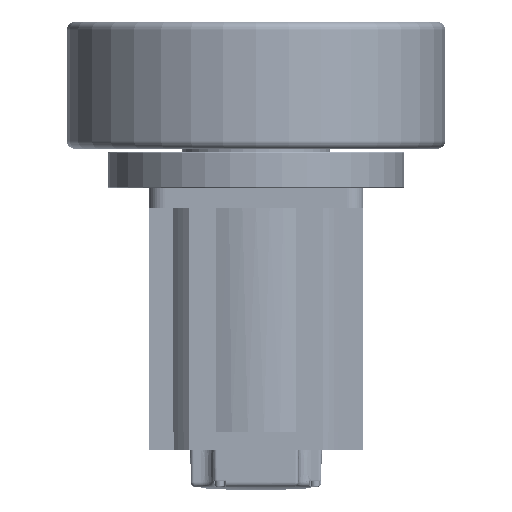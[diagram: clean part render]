
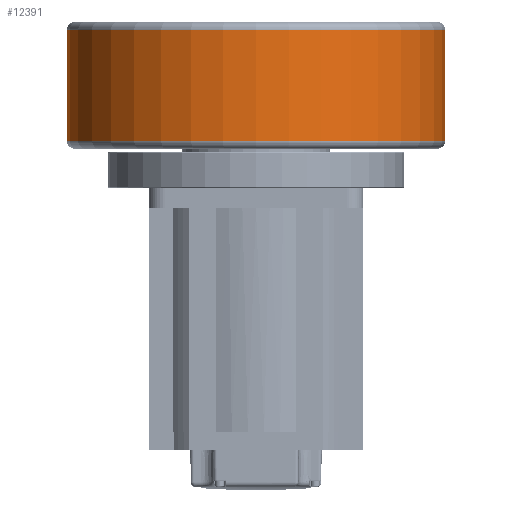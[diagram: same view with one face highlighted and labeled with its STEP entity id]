
A CAD part, left-side view. The second image highlights one B-rep face of the part: STEP entity #12391.
In plain terms, the highlighted cylindrical face has radius 115 mm (diameter 230 mm), a partial arc.
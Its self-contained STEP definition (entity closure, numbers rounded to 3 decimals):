
#10570=CARTESIAN_POINT('',(5.,0.,0.));
#10571=DIRECTION('',(1.,0.,0.));
#10572=DIRECTION('',(0.,0.,-1.));
#10573=AXIS2_PLACEMENT_3D('',#10570,#10571,#10572);
#10580=DIRECTION('',(-1.,0.,0.));
#10581=VECTOR('',#10580,67.);
#10582=CARTESIAN_POINT('',(72.,0.,115.));
#10583=LINE('',#10582,#10581);
#10589=CARTESIAN_POINT('',(72.,0.,0.));
#10590=DIRECTION('',(-1.,0.,0.));
#10591=DIRECTION('',(0.,0.,1.));
#10592=AXIS2_PLACEMENT_3D('',#10589,#10590,#10591);
#10624=DIRECTION('',(-1.,0.,0.));
#10625=VECTOR('',#10624,67.);
#10626=CARTESIAN_POINT('',(72.,0.,-115.));
#10627=LINE('',#10626,#10625);
#11732=CARTESIAN_POINT('',(5.,0.,-115.));
#11733=CARTESIAN_POINT('',(5.,0.,115.));
#11734=VERTEX_POINT('',#11732);
#11735=VERTEX_POINT('',#11733);
#11736=CARTESIAN_POINT('',(72.,0.,115.));
#11737=CARTESIAN_POINT('',(72.,0.,-115.));
#11738=VERTEX_POINT('',#11736);
#11739=VERTEX_POINT('',#11737);
#12377=CARTESIAN_POINT('',(0.,0.,0.));
#12378=DIRECTION('',(-1.,0.,0.));
#12379=DIRECTION('',(0.,0.,1.));
#12380=AXIS2_PLACEMENT_3D('',#12377,#12378,#12379);
#12381=CYLINDRICAL_SURFACE('',#12380,115.);
#12383=ORIENTED_EDGE('',*,*,#12382,.F.);
#12385=ORIENTED_EDGE('',*,*,#12384,.T.);
#12386=ORIENTED_EDGE('',*,*,#12367,.F.);
#12388=ORIENTED_EDGE('',*,*,#12387,.F.);
#12389=EDGE_LOOP('',(#12383,#12385,#12386,#12388));
#12390=FACE_OUTER_BOUND('',#12389,.F.);
#12391=ADVANCED_FACE('',(#12390),#12381,.T.);
#10574=CIRCLE('',#10573,115.);
#10593=CIRCLE('',#10592,115.);
#12367=EDGE_CURVE('',#11734,#11735,#10574,.T.);
#12382=EDGE_CURVE('',#11738,#11739,#10593,.T.);
#12384=EDGE_CURVE('',#11738,#11735,#10583,.T.);
#12387=EDGE_CURVE('',#11739,#11734,#10627,.T.);
